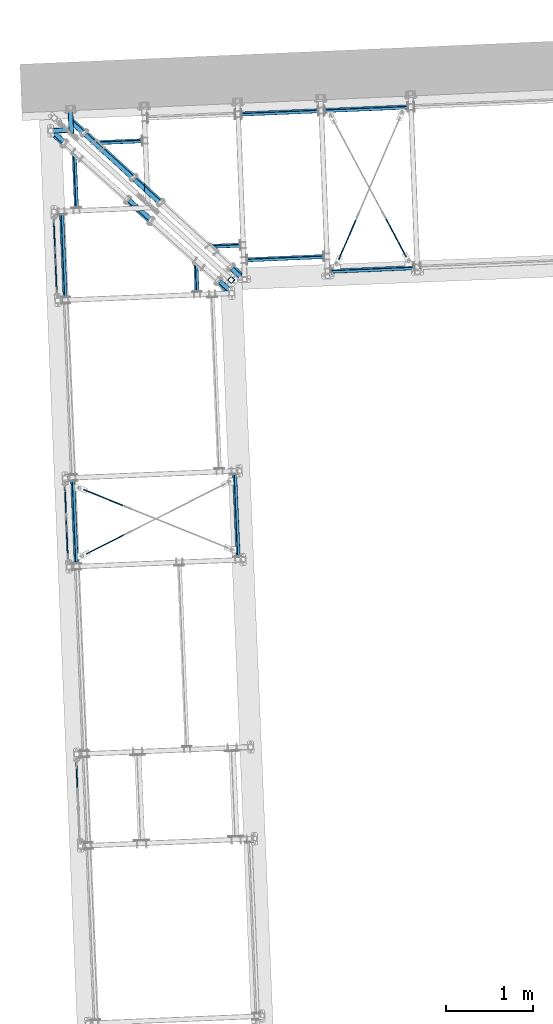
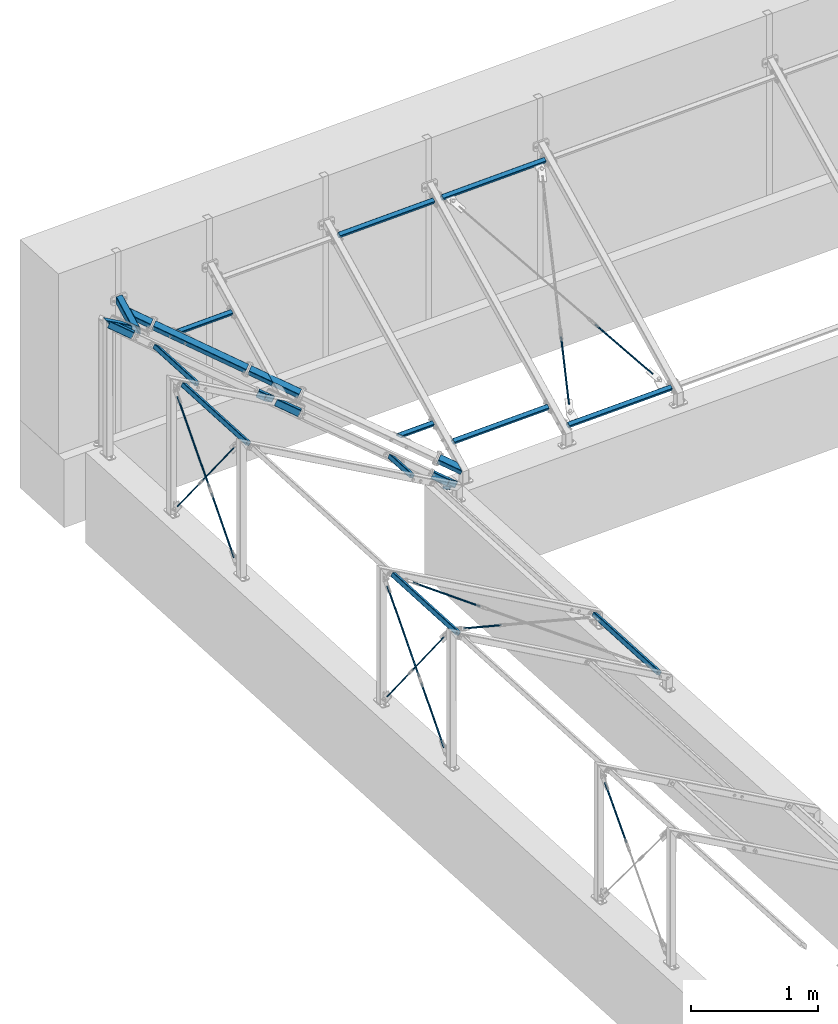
# One storey, part 21 of 288: 36 members, 4 openings.
"""IFC2X3 building model written with IfcOpenShell, lengths in millimetres."""

from ifc_helpers import new_model, entity, si_unit, converted_unit, frame, frame_2d, origin, origin_with_axes, origin_2d, place, context, project, spatial, hollow_rectangle, circle, extrude, clip, halfspace, material, element, save


model = new_model("IFC2X3")

# Units and contexts
model_context = context("Model", 3, precision=1e-09, world=origin_with_axes())
ifc_project = project(units=[si_unit("LENGTHUNIT", "METRE", prefix="MILLI"), si_unit("AREAUNIT", "SQUARE_METRE"), si_unit("VOLUMEUNIT", "CUBIC_METRE"), converted_unit("PLANEANGLEUNIT", "DEGREE", entity("IfcPlaneAngleMeasure", 0.01745329), si_unit("PLANEANGLEUNIT", "RADIAN"), dimensions=[0, 0, 0, 0, 0, 0, 0])], contexts=[model_context])

# Site, building, storey
site_placement = place(None, origin_with_axes())
site = spatial("IfcSite", under=ifc_project, at=site_placement, Name="Remont ?wietlik?w nad MC w NCPP w Opolu", CompositionType="ELEMENT")
building_placement = place(site_placement, origin_with_axes())
building = spatial("IfcBuilding", under=site, at=building_placement, Name="Konstrukcja 1", CompositionType="ELEMENT")
storey_placement = place(building_placement, origin_with_axes())
storey = spatial("IfcBuildingStorey", under=building, at=storey_placement, Name="Default Storey", CompositionType="ELEMENT", Elevation=0.0)

# Members
ifc_material_1 = material(Name="S235")
member_1_placement = place(None, frame((-836.463957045, 15292.496804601, 1312.43637273), z_axis=(0.865273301, 0.036089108, -0.499999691), x_axis=(-0.499565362, -0.020836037, -0.866025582)))
element("IfcMember", 1, at=member_1_placement, inside=storey, material=ifc_material_1, Name="Horizontal_Beam", ObjectType="Horizontal_Beam", context=model_context, shape_type="Clipping", body=[
    clip(clip(extrude(hollow_rectangle(XDim=60.0, YDim=60.0, WallThickness=3.0, InnerFilletRadius=3.0, OuterFilletRadius=6.0, at=origin_2d()), origin(), (0.0, 0.0, 1.0), 360.08104135), halfspace(frame((581.175144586, -15314.070047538, 1091.479474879), z_axis=(-0.86602535, 0.0, 0.500000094), x_axis=(0.0, 1.0, 0.0)), True)), halfspace(frame((-2767.331824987, -7572.627101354, 7497.600208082), z_axis=(0.348940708, -0.709991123, -0.611680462), x_axis=(-0.354997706, -0.704205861, 0.614874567)), True)),
])
member_2_placement = place(None, frame((-537.215229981, 15577.193330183, 1326.772549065), z_axis=(0.033507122, -0.849923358, -0.52583986), x_axis=(-0.020714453, 0.525431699, -0.850583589)))
element("IfcMember", 2, at=member_2_placement, inside=storey, material=ifc_material_1, Name="Horizontal_Beam", ObjectType="Horizontal_Beam", context=model_context, shape_type="Clipping", body=[
    clip(clip(clip(extrude(hollow_rectangle(XDim=60.0, YDim=60.0, WallThickness=3.0, InnerFilletRadius=3.0, OuterFilletRadius=6.0, at=origin_2d()), origin(), (0.0, 0.0, 1.0), 420.9657035), halfspace(frame((1101.995141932, -76.831890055, 740.593468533), z_axis=(-0.52583986, -2.39e-07, 0.850583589), x_axis=(-1.2e-07, 1.0, 2.07e-07)), True)), halfspace(frame((1094.126617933, -76.835413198, 753.321368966), z_axis=(-0.52583986, 0.0, 0.850583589), x_axis=(0.0, 1.0, 0.0)), True)), halfspace(frame((-2943.742814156, 7602.067381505, 7360.697365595), z_axis=(0.377288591, 0.702579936, -0.603352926), x_axis=(0.36944699, -0.711600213, -0.597606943)), True)),
])
member_3_placement = place(None, frame((1399.887870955, 10382.314571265, 137.054567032), z_axis=(0.041662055, -0.99913176, -1.7416e-05), x_axis=(0.8652733, 0.036089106, -0.499999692)))
element("IfcMember", 3, at=member_3_placement, inside=storey, material=ifc_material_1, Name="TubeBracing", ObjectType="TubeBracing", context=model_context, shape_type="SweptSolid", body=[
    extrude(hollow_rectangle(XDim=40.0, YDim=40.0, WallThickness=3.0, InnerFilletRadius=3.0, OuterFilletRadius=6.0, at=origin_2d()), origin(), (0.0, 0.0, -1.0), 947.835217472),
])
member_4_placement = place(None, frame((3430.236165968, 13715.250313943, 140.503525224), z_axis=(0.999102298, 0.042361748, -0.000284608), x_axis=(-0.036464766, 0.86340262, 0.503196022)))
element("IfcMember", 4, at=member_4_placement, inside=storey, material=ifc_material_1, Name="TubeBracing", ObjectType="TubeBracing", context=model_context, shape_type="SweptSolid", body=[
    extrude(hollow_rectangle(XDim=40.0, YDim=40.0, WallThickness=3.0, InnerFilletRadius=3.0, OuterFilletRadius=6.0, at=origin_2d()), origin(), (0.0, 0.0, -1.0), 958.788728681),
])
member_5_placement = place(None, frame((2387.085211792, 13844.010654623, 241.437807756), z_axis=(0.999102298, 0.042361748, -0.000284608), x_axis=(-0.036464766, 0.86340262, 0.503196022)))
element("IfcMember", 5, at=member_5_placement, inside=storey, material=ifc_material_1, Name="TubeBracing", ObjectType="TubeBracing", context=model_context, shape_type="SweptSolid", body=[
    extrude(hollow_rectangle(XDim=40.0, YDim=40.0, WallThickness=3.0, InnerFilletRadius=3.0, OuterFilletRadius=6.0, at=origin_2d()), origin(), (0.0, 0.0, -1.0), 882.260751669),
])
member_6_placement = place(None, frame((928.366564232, 13375.487704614, 337.10698419), z_axis=(0.041662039, -0.99913176, -1.7445e-05), x_axis=(0.8652733, 0.036089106, -0.499999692)))
element("IfcMember", 6, at=member_6_placement, inside=storey, material=ifc_material_1, Name="TubeBracing", ObjectType="TubeBracing", context=model_context, shape_type="Clipping", body=[
    clip(clip(extrude(hollow_rectangle(XDim=40.0, YDim=40.0, WallThickness=3.0, InnerFilletRadius=3.0, OuterFilletRadius=6.0, at=origin_2d()), origin(), (0.0, 0.0, -1.0), 493.436881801), halfspace(frame((-1117.446839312, -1034.414963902, -67.264497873), z_axis=(0.0, -2.0023e-05, -1.0), x_axis=(-0.866025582, -0.499999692, 1.0013e-05)), True)), halfspace(frame((6095.509272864, -1034.318730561, 4777.649190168), z_axis=(-0.644920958, 1.5372e-05, 0.764249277), x_axis=(0.699209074, 0.403700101, 0.59002788)), True)),
])
member_7_placement = place(None, frame((1488.238204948, 13978.765778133, 342.541730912), z_axis=(0.999102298, 0.042361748, -0.000284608), x_axis=(-0.036464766, 0.86340262, 0.503196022)))
element("IfcMember", 7, at=member_7_placement, inside=storey, material=ifc_material_1, Name="TubeBracing", ObjectType="TubeBracing", context=model_context, shape_type="Clipping", body=[
    clip(clip(extrude(hollow_rectangle(XDim=40.0, YDim=40.0, WallThickness=3.0, InnerFilletRadius=3.0, OuterFilletRadius=6.0, at=origin_2d()), origin(), (0.0, 0.0, -1.0), 505.942297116), halfspace(frame((-12192.177487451, 6702.925980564, -108.51542628), z_axis=(0.002424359, -0.001741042, -0.999995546), x_axis=(-0.864168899, 0.50319309, -0.002971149)), True)), halfspace(frame((-6099.836620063, 6700.973047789, 4924.018757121), z_axis=(0.656056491, 0.000159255, 0.75471177), x_axis=(0.690917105, -0.402509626, -0.600516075)), True)),
])
member_8_placement = place(None, frame((1320.112038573, 13574.11284278, -42.42625714), z_axis=(0.00176286, 0.001987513, -0.999996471), x_axis=(-0.663558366, -0.748119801, -0.002656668)))
element("IfcMember", 8, at=member_8_placement, inside=storey, material=ifc_material_1, Name="-", ObjectType="-", context=model_context, shape_type="Clipping", body=[
    clip(clip(extrude(hollow_rectangle(XDim=60.0, YDim=60.0, WallThickness=3.0, InnerFilletRadius=3.0, OuterFilletRadius=6.0, at=origin_2d()), origin(), (0.0, 0.0, -1.0), 204.7445632), halfspace(frame((11030.921273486, -8019.642487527, -52.427406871), z_axis=(0.0, 0.0, -1.0), x_axis=(-0.663562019, -0.748121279, 0.0)), True)), halfspace(frame((10989.316564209, -5518.458637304, -3856.803278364), z_axis=(0.009170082, -0.551285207, 0.834266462), x_axis=(-0.99991693, -0.012612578, 0.002656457)), True)),
])
member_9_placement = place(None, frame((-817.458703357, 15342.831446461, 1300.243948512), z_axis=(-0.688159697, 0.616779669, 0.382124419), x_axis=(0.499565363, 0.020836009, 0.866025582)))
element("IfcMember", 9, at=member_9_placement, inside=storey, material=ifc_material_1, Name="Horizontal_Beam", ObjectType="Horizontal_Beam", context=model_context, shape_type="Clipping", body=[
    clip(clip(extrude(hollow_rectangle(XDim=60.0, YDim=60.0, WallThickness=3.0, InnerFilletRadius=3.0, OuterFilletRadius=6.0, at=origin_2d()), origin(), (0.0, 0.0, -1.0), 381.248050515), halfspace(frame((-1037.354277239, 457.589474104, -665.527110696), z_axis=(0.0, -0.764249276, -0.64492096), x_axis=(0.499999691, 0.55851806, -0.661859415)), True)), halfspace(frame((-1037.353841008, -11223.249226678, -296.320643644), z_axis=(0.0, 0.0, 1.0), x_axis=(-0.348941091, -0.937144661, 0.0)), True)),
])
member_10_placement = place(None, frame((72.187518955, 14545.464636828, 806.237183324), z_axis=(-0.688159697, 0.616779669, 0.382124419), x_axis=(0.499565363, 0.020836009, 0.866025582)))
element("IfcMember", 10, at=member_10_placement, inside=storey, material=ifc_material_1, Name="Horizontal_Beam", ObjectType="Horizontal_Beam", context=model_context, shape_type="Clipping", body=[
    clip(clip(extrude(hollow_rectangle(XDim=60.0, YDim=60.0, WallThickness=3.0, InnerFilletRadius=3.0, OuterFilletRadius=6.0, at=origin_2d()), origin(), (0.0, 0.0, -1.0), 483.527236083), halfspace(frame((-1037.35417002, -210.950295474, 63.107909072), z_axis=(0.0, 0.764249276, 0.64492096), x_axis=(-0.499999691, -0.558518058, 0.661859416)), True)), halfspace(frame((-1037.353841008, -11223.249226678, -84.927406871), z_axis=(0.0, 0.0, -1.0), x_axis=(0.348941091, 0.937144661, 0.0)), True)),
])
member_11_placement = place(None, frame((211.992871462, 14420.160729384, 728.605436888), z_axis=(-0.688159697, 0.616779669, 0.382124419), x_axis=(0.499565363, 0.020836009, 0.866025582)))
element("IfcMember", 11, at=member_11_placement, inside=storey, material=ifc_material_1, Name="Horizontal_Beam", ObjectType="Horizontal_Beam", context=model_context, shape_type="Clipping", body=[
    clip(clip(extrude(hollow_rectangle(XDim=60.0, YDim=60.0, WallThickness=3.0, InnerFilletRadius=3.0, OuterFilletRadius=6.0, at=origin_2d()), origin(), (0.0, 0.0, -1.0), 334.730723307), halfspace(frame((-1037.354168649, -256.806780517, 227.569659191), z_axis=(0.0, -0.764249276, -0.64492096), x_axis=(0.499999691, 0.558518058, -0.661859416)), True)), halfspace(frame((-1037.353841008, -11223.249226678, -249.803316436), z_axis=(0.0, 0.0, 1.0), x_axis=(-0.348941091, -0.937144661, 0.0)), True)),
])
member_12_placement = place(None, frame((1117.869509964, 13608.247019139, 225.586173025), z_axis=(-0.688159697, 0.616779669, 0.382124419), x_axis=(0.499565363, 0.020836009, 0.866025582)))
element("IfcMember", 12, at=member_12_placement, inside=storey, material=ifc_material_1, Name="Horizontal_Beam", ObjectType="Horizontal_Beam", context=model_context, shape_type="Clipping", body=[
    clip(clip(extrude(hollow_rectangle(XDim=60.0, YDim=60.0, WallThickness=3.0, InnerFilletRadius=3.0, OuterFilletRadius=6.0, at=origin_2d()), origin(), (0.0, 0.0, -1.0), 452.349715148), halfspace(frame((-1037.352618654, -994.944027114, 921.059256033), z_axis=(0.0, 0.764249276, 0.64492096), x_axis=(-0.499999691, -0.558518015, 0.661859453)), True)), halfspace(frame((-1037.353841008, -11223.249226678, -84.927406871), z_axis=(0.0, 0.0, -1.0), x_axis=(0.348941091, 0.937144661, 0.0)), True)),
])
member_13_placement = place(None, frame((-324.254198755, 15225.07255232, 1111.995824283), z_axis=(0.683038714, -0.625065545, -0.37782427), x_axis=(0.019762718, -0.501290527, 0.865053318)))
element("IfcMember", 13, at=member_13_placement, inside=storey, material=ifc_material_1, Name="-", ObjectType="-", context=model_context, shape_type="Clipping", body=[
    clip(clip(extrude(hollow_rectangle(XDim=60.0, YDim=60.0, WallThickness=3.0, InnerFilletRadius=3.0, OuterFilletRadius=6.0, at=origin_2d()), origin(), (0.0, 0.0, -1.0), 378.118306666), halfspace(frame((6676.657111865, 9159.452627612, 10228.571678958), z_axis=(0.0, -0.75311817, 0.657885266), x_axis=(-0.501679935, -0.569105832, -0.651487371)), True)), halfspace(frame((6676.657111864, 9239.913209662, -84.989345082), z_axis=(0.0, 0.0, -1.0), x_axis=(0.356470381, 0.934306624, 0.0)), True)),
])
member_14_placement = place(None, frame((519.069330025, 14456.301580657, 640.448022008), z_axis=(0.683038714, -0.625065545, -0.37782427), x_axis=(0.019762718, -0.501290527, 0.865053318)))
element("IfcMember", 14, at=member_14_placement, inside=storey, material=ifc_material_1, Name="-", ObjectType="-", context=model_context, shape_type="Clipping", body=[
    clip(clip(extrude(hollow_rectangle(XDim=60.0, YDim=60.0, WallThickness=3.0, InnerFilletRadius=3.0, OuterFilletRadius=6.0, at=origin_2d()), origin(), (0.0, 0.0, -1.0), 547.570581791), halfspace(frame((6682.527131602, 9240.02274954, -462.64317492), z_axis=(0.0, 0.0, 1.0), x_axis=(-0.356470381, -0.934306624, 0.0)), True)), halfspace(frame((6682.527131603, 8564.603150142, 9513.580181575), z_axis=(0.0, 0.753118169, -0.657885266), x_axis=(0.501679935, 0.569105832, 0.651487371)), True)),
])

# Member, openings
member_15_placement = place(None, frame((243.997503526, 14708.026581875, 792.604568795), z_axis=(0.683038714, -0.625065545, -0.37782427), x_axis=(0.019762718, -0.501290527, 0.865053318)))
member_15 = element("IfcMember", 15, at=member_15_placement, inside=storey, material=ifc_material_1, Name="Horizontal_Beam", ObjectType="Horizontal_Beam", context=model_context, shape_type="Clipping", body=[
    clip(clip(extrude(hollow_rectangle(XDim=60.0, YDim=60.0, WallThickness=3.0, InnerFilletRadius=3.0, OuterFilletRadius=6.0, at=origin_2d()), origin(), (0.0, 0.0, -1.0), 976.975991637), halfspace(frame((6682.527131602, 9240.02274954, -84.927406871), z_axis=(0.0, 0.0, -1.0), x_axis=(0.356470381, 0.934306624, 0.0)), True)), halfspace(frame((6682.527131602, 9240.02274954, -891.986646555), z_axis=(0.0, 0.0, 1.0), x_axis=(-0.356470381, -0.934306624, 0.0)), True)),
])
opening_1_placement = place(member_15_placement, frame((8.043289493, -26.497940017, -745.286789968), z_axis=(0.000158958, 0.99999998, 0.000120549), x_axis=(-0.999999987, 0.000158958, 0.0)))
element("IfcOpeningElement", 16, at=opening_1_placement, cuts=member_15, ObjectType="Opening", context=model_context, shape_type="SweptSolid", body=[
    extrude(circle(Radius=7.001, at=frame_2d((0.016281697, 7.000981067), x_axis=(1.0, 0.0))), origin(), (0.0, 0.0, -1.0), 4.002605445),
])
opening_2_placement = place(member_15_placement, frame((8.052350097, 30.502059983, -745.279918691), z_axis=(0.000158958, 0.99999998, 0.000120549), x_axis=(-0.999999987, 0.000158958, 0.0)))
element("IfcOpeningElement", 17, at=opening_2_placement, cuts=member_15, ObjectType="Opening", context=model_context, shape_type="SweptSolid", body=[
    extrude(circle(Radius=7.001, at=frame_2d((0.016281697, 7.000981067), x_axis=(1.0, 0.0))), origin(), (0.0, 0.0, -1.0), 4.002605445),
])
opening_3_placement = place(member_15_placement, frame((9.742105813, -26.497940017, -612.332732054), z_axis=(0.000158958, 0.99999998, 0.000120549), x_axis=(-0.999999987, 0.000158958, 0.0)))
element("IfcOpeningElement", 18, at=opening_3_placement, cuts=member_15, ObjectType="Opening", context=model_context, shape_type="SweptSolid", body=[
    extrude(circle(Radius=7.001, at=frame_2d((0.016281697, 7.000981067), x_axis=(1.0, 0.0))), origin(), (0.0, 0.0, -1.0), 4.002605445),
])
opening_4_placement = place(member_15_placement, frame((9.751166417, 30.502059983, -612.325860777), z_axis=(0.000158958, 0.99999998, 0.000120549), x_axis=(-0.999999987, 0.000158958, 0.0)))
element("IfcOpeningElement", 19, at=opening_4_placement, cuts=member_15, ObjectType="Opening", context=model_context, shape_type="SweptSolid", body=[
    extrude(circle(Radius=7.001, at=frame_2d((0.016281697, 7.000981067), x_axis=(1.0, 0.0))), origin(), (0.0, 0.0, -1.0), 4.002605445),
])

# Members
member_16_placement = place(None, frame((558.118947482, 14420.566314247, 618.847645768), z_axis=(0.683038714, -0.625065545, -0.37782427), x_axis=(0.019762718, -0.501290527, 0.865053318)))
element("IfcMember", 20, at=member_16_placement, inside=storey, material=ifc_material_1, Name="-", ObjectType="-", context=model_context, shape_type="Clipping", body=[
    clip(clip(extrude(hollow_rectangle(XDim=60.0, YDim=60.0, WallThickness=3.0, InnerFilletRadius=3.0, OuterFilletRadius=6.0, at=origin_2d()), origin(), (0.0, 0.0, -1.0), 423.717443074), halfspace(frame((6682.527131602, 9240.02274954, -84.927406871), z_axis=(0.0, 0.0, -1.0), x_axis=(0.356470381, 0.934306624, 0.0)), True)), halfspace(frame((6682.527131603, 8564.601643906, 9456.411066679), z_axis=(0.0, -0.753118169, 0.657885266), x_axis=(-0.501679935, -0.569105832, -0.651487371)), True)),
])
member_17_placement = place(None, frame((1574.234096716, 13491.358165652, 55.578003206), z_axis=(0.683021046, -0.624623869, -0.378585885), x_axis=(0.020364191, -0.501840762, 0.864720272)))
element("IfcMember", 21, at=member_17_placement, inside=storey, material=ifc_material_1, Name="-", ObjectType="-", context=model_context, shape_type="Clipping", body=[
    clip(clip(extrude(hollow_rectangle(XDim=60.0, YDim=60.0, WallThickness=3.0, InnerFilletRadius=3.0, OuterFilletRadius=6.0, at=origin_2d()), origin(), (0.0, 0.0, -1.0), 446.821530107), halfspace(frame((6690.39603474, 9240.02274954, -361.894123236), z_axis=(0.0, 0.0, 1.0), x_axis=(-0.35659022, -0.934260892, 0.0)), True)), halfspace(frame((6691.542842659, 7749.253175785, 8675.089419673), z_axis=(-0.000579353, 0.753118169, -0.657885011), x_axis=(0.502253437, 0.569105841, 0.651045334)), True)),
])
member_18_placement = place(None, frame((-466.171571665, 14411.393642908, 1120.110281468), z_axis=(0.041662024, -0.999131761, -1.7472e-05), x_axis=(0.8652733, 0.036089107, -0.499999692)))
element("IfcMember", 22, at=member_18_placement, inside=storey, material=ifc_material_1, Name="TubeBracing", ObjectType="TubeBracing", context=model_context, shape_type="Clipping", body=[
    clip(extrude(hollow_rectangle(XDim=40.0, YDim=40.0, WallThickness=3.0, InnerFilletRadius=3.0, OuterFilletRadius=6.0, at=origin_2d()), origin(), (0.0, 0.0, -1.0), 886.165916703), halfspace(frame((7656.282372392, -1037.318644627, 5870.768711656), z_axis=(-0.644920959, 1.5395e-05, 0.764249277), x_axis=(0.699209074, 0.403700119, 0.590027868)), True)),
])
for number, where, z_axis, x_axis, name in (
    (23, (-596.487860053, 13379.231274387, 1220.092296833), (0.041662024, -0.999131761, -1.7472e-05), (0.8652733, 0.036089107, -0.499999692), "TubeBracing"),
    (24, (-468.272744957, 10304.397633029, 1220.038527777), (0.041662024, -0.999131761, -1.7472e-05), (0.8652733, 0.036089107, -0.499999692), "TubeBracing"),
):
    element("IfcMember", number, at=place(None, frame(where, z_axis=z_axis, x_axis=x_axis)), inside=storey, material=ifc_material_1, Name=name, ObjectType="TubeBracing", context=model_context, shape_type="SweptSolid", body=[
        extrude(hollow_rectangle(XDim=40.0, YDim=40.0, WallThickness=3.0, InnerFilletRadius=3.0, OuterFilletRadius=6.0, at=origin_2d()), origin(), (0.0, 0.0, -1.0), 947.835217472),
    ])
member_19_placement = place(None, frame((3357.119823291, 15570.10645401, 1223.640796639), z_axis=(0.999102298, 0.042361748, -0.000284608), x_axis=(-0.036464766, 0.86340262, 0.503196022)))
element("IfcMember", 25, at=member_19_placement, inside=storey, material=ifc_material_1, Name="TubeBracing", ObjectType="TubeBracing", context=model_context, shape_type="SweptSolid", body=[
    extrude(hollow_rectangle(XDim=40.0, YDim=40.0, WallThickness=3.0, InnerFilletRadius=3.0, OuterFilletRadius=6.0, at=origin_2d()), origin(), (0.0, 0.0, -1.0), 958.788728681),
])
member_20_placement = place(None, frame((2321.261822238, 15526.18627066, 1223.935874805), z_axis=(0.999102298, 0.042361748, -0.000284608), x_axis=(-0.036464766, 0.86340262, 0.503196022)))
element("IfcMember", 26, at=member_20_placement, inside=storey, material=ifc_material_1, Name="TubeBracing", ObjectType="TubeBracing", context=model_context, shape_type="SweptSolid", body=[
    extrude(hollow_rectangle(XDim=40.0, YDim=40.0, WallThickness=3.0, InnerFilletRadius=3.0, OuterFilletRadius=6.0, at=origin_2d()), origin(), (0.0, 0.0, -1.0), 882.260751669),
])
member_21_placement = place(None, frame((290.410477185, 15180.595342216, 1073.558049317), z_axis=(0.999102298, 0.042361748, -0.000284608), x_axis=(-0.036464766, 0.86340262, 0.503196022)))
element("IfcMember", 27, at=member_21_placement, inside=storey, material=ifc_material_1, Name="TubeBracing", ObjectType="TubeBracing", context=model_context, shape_type="Clipping", body=[
    clip(clip(extrude(hollow_rectangle(XDim=40.0, YDim=40.0, WallThickness=3.0, InnerFilletRadius=3.0, OuterFilletRadius=6.0, at=origin_2d()), origin(), (0.0, 0.0, -1.0), 881.384856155), halfspace(frame((-7549.022425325, 6699.2770759, 6070.067643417), z_axis=(0.656056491, 0.000159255, 0.75471177), x_axis=(0.690917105, -0.402509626, -0.600516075)), True)), halfspace(frame((-7546.687655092, 6697.799349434, 6071.05363876), z_axis=(0.656147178, 0.0, 0.754632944), x_axis=(0.690821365, -0.402453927, -0.600663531)), True)),
])
ifc_material_2 = material(Name="S275J2")
member_22_placement = place(None, frame((-708.123081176, 13786.472596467, 573.146855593), z_axis=(-0.025753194, 0.617462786, 0.786178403), x_axis=(0.999131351, 0.041671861, 0.0)))
element("IfcMember", 28, at=member_22_placement, inside=storey, material=ifc_material_2, Name="Tension_Rod#1", ObjectType="Tension_Rod#1", context=model_context, shape_type="Clipping", body=[
    clip(clip(extrude(circle(Radius=6.0, at=origin_2d()), origin(), (0.0, 0.0, -1.0), 688.970562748), halfspace(frame((133.000000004, -10498.206689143, -33.486281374), z_axis=(0.0, 0.0, -1.0), x_axis=(1.0, 0.0, 0.0)), True)), halfspace(frame((133.000000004, -10498.206689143, -570.484281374), z_axis=(0.0, 0.0, 1.0), x_axis=(-1.0, 0.0, 0.0)), True)),
])
member_23_placement = place(None, frame((-707.686034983, 13775.993905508, 559.804965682), z_axis=(0.025753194, -0.617462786, -0.786178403), x_axis=(-0.999131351, -0.041671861, 0.0)))
element("IfcMember", 29, at=member_23_placement, inside=storey, material=ifc_material_2, Name="Tension_Rod#2", ObjectType="Tension_Rod#2", context=model_context, shape_type="Clipping", body=[
    clip(clip(extrude(circle(Radius=6.0, at=origin_2d()), origin(), (0.0, 0.0, -1.0), 907.811704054), halfspace(frame((-133.000000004, -10498.206689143, -33.486281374), z_axis=(0.0, 0.0, -1.0), x_axis=(1.0, 0.0, 0.0)), True)), halfspace(frame((-133.000000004, -10498.206689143, -789.325422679), z_axis=(0.0, 0.0, 1.0), x_axis=(-1.0, 0.0, 0.0)), True)),
])
member_24_placement = place(None, frame((-713.321893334, 13911.120166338, 573.146855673), z_axis=(0.025753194, -0.617462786, 0.786178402), x_axis=(-0.999131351, -0.041671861, 0.0)))
element("IfcMember", 30, at=member_24_placement, inside=storey, material=ifc_material_2, Name="Tension_Rod#1", ObjectType="Tension_Rod#1", context=model_context, shape_type="Clipping", body=[
    clip(clip(extrude(circle(Radius=6.0, at=origin_2d()), origin(), (0.0, 0.0, -1.0), 688.970562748), halfspace(frame((-132.999999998, 11304.696181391, -33.486281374), z_axis=(0.0, 0.0, -1.0), x_axis=(1.0, 0.0, 0.0)), True)), halfspace(frame((-132.999999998, 11304.696181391, -570.484281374), z_axis=(0.0, 0.0, 1.0), x_axis=(-1.0, 0.0, 0.0)), True)),
])
member_25_placement = place(None, frame((-713.758939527, 13921.598857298, 559.804965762), z_axis=(-0.025753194, 0.617462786, -0.786178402), x_axis=(0.999131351, 0.041671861, 0.0)))
element("IfcMember", 31, at=member_25_placement, inside=storey, material=ifc_material_2, Name="Tension_Rod#2", ObjectType="Tension_Rod#2", context=model_context, shape_type="Clipping", body=[
    clip(clip(extrude(circle(Radius=6.0, at=origin_2d()), origin(), (0.0, 0.0, -1.0), 907.811703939), halfspace(frame((132.999999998, 11304.696181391, -33.486281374), z_axis=(0.0, 0.0, -1.0), x_axis=(1.0, 0.0, 0.0)), True)), halfspace(frame((132.999999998, 11304.696181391, -789.325422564), z_axis=(0.0, 0.0, 1.0), x_axis=(-1.0, 0.0, 0.0)), True)),
])
member_26_placement = place(None, frame((-579.852817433, 10711.043791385, 573.703296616), z_axis=(-0.025716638, 0.616586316, 0.786867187), x_axis=(0.999131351, 0.041671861, 0.0)))
element("IfcMember", 32, at=member_26_placement, inside=storey, material=ifc_material_2, Name="Tension_Rod#1", ObjectType="Tension_Rod#1", context=model_context, shape_type="Clipping", body=[
    clip(clip(extrude(circle(Radius=6.0, at=origin_2d()), origin(), (0.0, 0.0, -1.0), 688.970562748), halfspace(frame((133.000000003, -8085.81612969, -33.486281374), z_axis=(0.0, 0.0, -1.0), x_axis=(1.0, 0.0, 0.0)), True)), halfspace(frame((133.000000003, -8085.81612969, -570.484281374), z_axis=(0.0, 0.0, 1.0), x_axis=(-1.0, 0.0, 0.0)), True)),
])
member_27_placement = place(None, frame((-579.416391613, 10700.579974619, 560.34971765), z_axis=(0.025716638, -0.616586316, -0.786867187), x_axis=(-0.999131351, -0.041671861, 0.0)))
element("IfcMember", 33, at=member_27_placement, inside=storey, material=ifc_material_2, Name="Tension_Rod#2", ObjectType="Tension_Rod#2", context=model_context, shape_type="Clipping", body=[
    clip(clip(extrude(circle(Radius=6.0, at=origin_2d()), origin(), (0.0, 0.0, -1.0), 910.033264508), halfspace(frame((-133.000000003, -8085.81612969, -33.486281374), z_axis=(0.0, 0.0, -1.0), x_axis=(1.0, 0.0, 0.0)), True)), halfspace(frame((-133.000000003, -8085.81612969, -791.546983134), z_axis=(0.0, 0.0, 1.0), x_axis=(-1.0, 0.0, 0.0)), True)),
])
member_28_placement = place(None, frame((-584.920237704, 10837.500116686, 571.208236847), z_axis=(0.025458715, -0.615703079, 0.787566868), x_axis=(-0.999146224, -0.04131371, 0.0)))
element("IfcMember", 34, at=member_28_placement, inside=storey, material=ifc_material_2, Name="Tension_Rod#1", ObjectType="Tension_Rod#1", context=model_context, shape_type="Clipping", body=[
    clip(clip(extrude(circle(Radius=6.0, at=origin_2d()), origin(), (0.0, 0.0, -1.0), 688.970562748), halfspace(frame((-136.683505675, 8898.995759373, -33.486281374), z_axis=(0.0, 0.0, -1.0), x_axis=(1.0, 0.0, 0.0)), True)), halfspace(frame((-136.683505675, 8898.995759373, -570.484281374), z_axis=(0.0, 0.0, 1.0), x_axis=(-1.0, 0.0, 0.0)), True)),
])
member_29_placement = place(None, frame((-585.35228642, 10847.948944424, 557.842783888), z_axis=(-0.025458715, 0.615703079, -0.787566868), x_axis=(0.999146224, 0.04131371, 0.0)))
element("IfcMember", 35, at=member_29_placement, inside=storey, material=ifc_material_2, Name="Tension_Rod#2", ObjectType="Tension_Rod#2", context=model_context, shape_type="Clipping", body=[
    clip(clip(extrude(circle(Radius=6.0, at=origin_2d()), origin(), (0.0, 0.0, -1.0), 912.301806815), halfspace(frame((136.683505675, 8898.995759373, -33.486281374), z_axis=(0.0, 0.0, -1.0), x_axis=(1.0, 0.0, 0.0)), True)), halfspace(frame((136.683505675, 8898.995759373, -793.815525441), z_axis=(0.0, 0.0, 1.0), x_axis=(-1.0, 0.0, 0.0)), True)),
])
member_30_placement = place(None, frame((-452.749809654, 7663.601306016, 768.518562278), z_axis=(0.026273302, -0.629932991, -0.77620496), x_axis=(-0.999131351, -0.041671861, 0.0)))
element("IfcMember", 36, at=member_30_placement, inside=storey, material=ifc_material_2, Name="Tension_Rod#2", ObjectType="Tension_Rod#2", context=model_context, shape_type="Clipping", body=[
    clip(clip(extrude(circle(Radius=6.0, at=origin_2d()), origin(), (0.0, 0.0, -1.0), 652.062044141), halfspace(frame((-133.000000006, -5473.466680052, -33.486281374), z_axis=(0.0, 0.0, -1.0), x_axis=(1.0, 0.0, 0.0)), True)), halfspace(frame((-133.000000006, -5473.466680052, -533.575762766), z_axis=(0.0, 0.0, 1.0), x_axis=(-1.0, 0.0, 0.0)), True)),
])
member_31_placement = place(None, frame((133.837918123, 10944.811440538, 865.399428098), z_axis=(0.820057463, -0.331378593, -0.466576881), x_axis=(-0.50076706, -0.020865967, -0.865330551)))
element("IfcMember", 37, at=member_31_placement, inside=storey, material=ifc_material_2, Name="Tension_Rod#1", ObjectType="Tension_Rod#1", context=model_context, shape_type="Clipping", body=[
    clip(clip(extrude(circle(Radius=6.0, at=origin_2d()), origin(), (0.0, 0.0, -1.0), 761.970562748), halfspace(frame((1044.252257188, -10202.540455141, -33.486281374), z_axis=(0.0, 0.0, -1.0), x_axis=(0.206963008, -0.978348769, 0.0)), True)), halfspace(frame((1044.252257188, -10202.540455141, -633.484281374), z_axis=(0.0, 0.0, 1.0), x_axis=(-0.206963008, 0.978348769, 0.0)), True)),
])
member_32_placement = place(None, frame((145.574013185, 10663.358379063, 865.39450821), z_axis=(0.789622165, 0.398515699, -0.466564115), x_axis=(0.500767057, 0.020865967, 0.865330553)))
element("IfcMember", 38, at=member_32_placement, inside=storey, material=ifc_material_2, Name="Tension_Rod#1", ObjectType="Tension_Rod#1", context=model_context, shape_type="Clipping", body=[
    clip(clip(extrude(circle(Radius=6.0, at=origin_2d()), origin(), (0.0, 0.0, -1.0), 761.970562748), halfspace(frame((-1044.252259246, 9884.315197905, -33.486281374), z_axis=(0.0, 0.0, -1.0), x_axis=(0.20699821, 0.978341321, 0.0)), True)), halfspace(frame((-1044.252259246, 9884.315197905, -633.484281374), z_axis=(0.0, 0.0, 1.0), x_axis=(-0.20699821, -0.978341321, 0.0)), True)),
])
member_33_placement = place(None, frame((2783.17826592, 14323.852578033, 520.735269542), z_axis=(0.350075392, 0.813033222, 0.465214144), x_axis=(-0.021594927, 0.503513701, -0.863717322)))
element("IfcMember", 39, at=member_33_placement, inside=storey, material=ifc_material_2, Name="Tension_Rod#1", ObjectType="Tension_Rod#1", context=model_context, shape_type="Clipping", body=[
    clip(clip(extrude(circle(Radius=6.0, at=origin_2d()), origin(), (0.0, 0.0, -1.0), 791.970562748), halfspace(frame((-6702.385426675, -1681.708843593, -33.486281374), z_axis=(0.0, 0.0, -1.0), x_axis=(-0.218962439, -0.975733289, 0.0)), True)), halfspace(frame((-6702.385426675, -1681.708843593, -633.484281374), z_axis=(0.0, 0.0, 1.0), x_axis=(0.218962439, 0.975733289, 0.0)), True)),
])
member_34_placement = place(None, frame((3076.165824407, 14336.275195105, 520.651808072), z_axis=(-0.417375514, 0.780493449, 0.465432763), x_axis=(0.021594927, -0.503513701, 0.863717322)))
element("IfcMember", 40, at=member_34_placement, inside=storey, material=ifc_material_2, Name="Tension_Rod#1", ObjectType="Tension_Rod#1", context=model_context, shape_type="Clipping", body=[
    clip(clip(extrude(circle(Radius=6.0, at=origin_2d()), origin(), (0.0, 0.0, -1.0), 791.970562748), halfspace(frame((6702.385426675, -8207.510685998, -33.486281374), z_axis=(0.0, 0.0, -1.0), x_axis=(-0.218397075, 0.975859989, 0.0)), True)), halfspace(frame((6702.385426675, -8207.510685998, -633.484281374), z_axis=(0.0, 0.0, 1.0), x_axis=(0.218397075, -0.975859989, 0.0)), True)),
])

save(model, "model.ifc")
